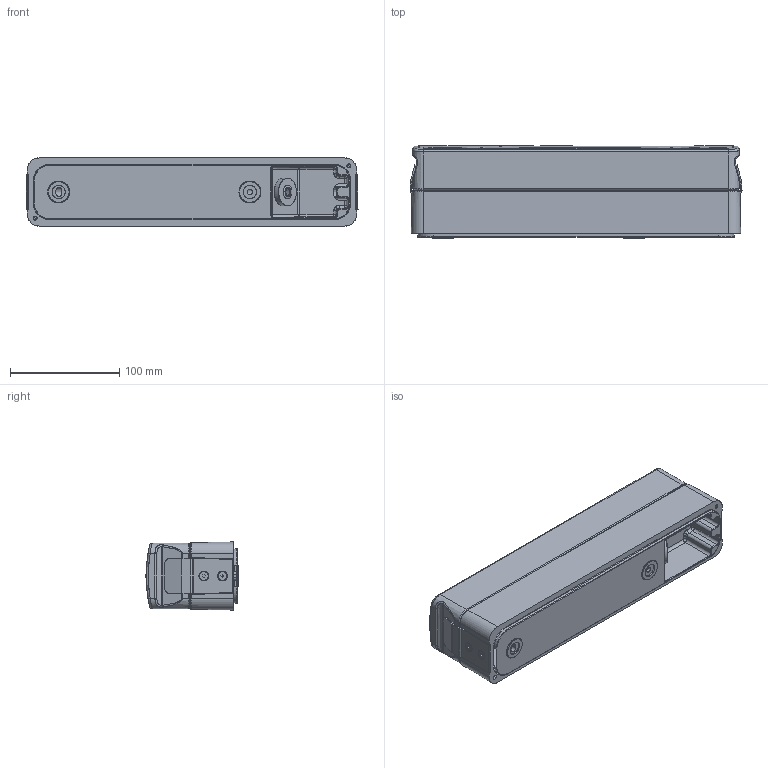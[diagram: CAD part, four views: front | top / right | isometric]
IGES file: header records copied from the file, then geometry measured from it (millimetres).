
Start section: SolidWorks IGES file using analytic representation for surfaces
Global section: file name: C:\Users\alex.movellan\Desktop\Temp Álex\Aplique Estadio\web\ESTWB01.IGS; native system: SolidWorks 2021; preprocessor: SolidWorks 2021; author: alex.movellan; date: 220429.114940; units: millimetre
Bounding box: 303.86 x 84.25 x 62.36 mm (x, y, z)
Surface area: 115562.3 mm2 (no closed solid volume)
Topology: 0 solids, 0 shells, 372 faces, 3621 edges, 3615 vertices
Faces by surface type: bspline 215, revolution 157
